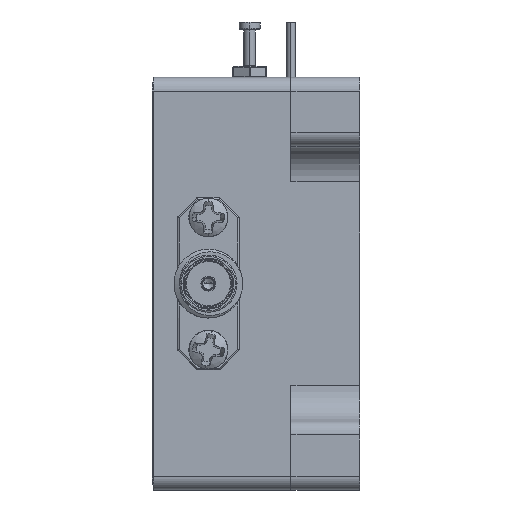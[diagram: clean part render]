
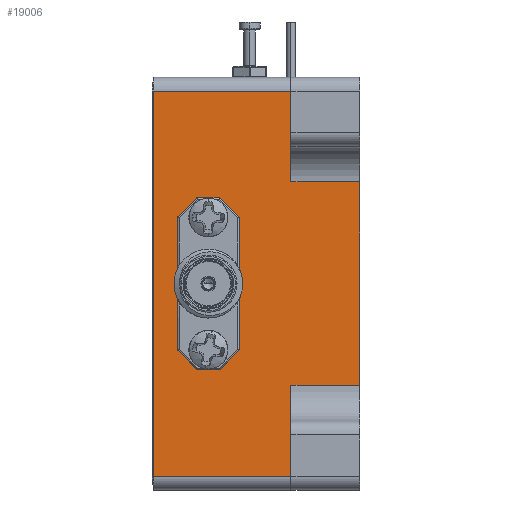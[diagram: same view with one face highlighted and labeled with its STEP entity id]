
A CAD part, left-side view. The second image highlights one B-rep face of the part: STEP entity #19006.
In plain terms, the highlighted planar face has unit normal (-1, 0, 0).
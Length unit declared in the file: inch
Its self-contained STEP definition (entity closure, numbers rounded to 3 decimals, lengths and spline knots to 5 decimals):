
#27 = LINE ( 'NONE', #52904, #43646 ) ;
#1480 = DIRECTION ( 'NONE',  ( 0., 0., 1. ) ) ;
#2326 = CARTESIAN_POINT ( 'NONE',  ( -0.8, 0.25, 0.25 ) ) ;
#4356 = AXIS2_PLACEMENT_3D ( 'NONE', #42103, #19575, #37378 ) ;
#5212 = CARTESIAN_POINT ( 'NONE',  ( -0.8, 0.75, 0. ) ) ;
#5288 = CARTESIAN_POINT ( 'NONE',  ( -0.8, 0.55, -0.5 ) ) ;
#6174 = EDGE_LOOP ( 'NONE', ( #51409, #49813, #33676, #54991, #54261, #46404, #44691, #6988 ) ) ;
#6676 = EDGE_CURVE ( 'NONE', #37142, #35496, #41799, .T. ) ;
#6988 = ORIENTED_EDGE ( 'NONE', *, *, #6676, .F. ) ;
#7002 = CARTESIAN_POINT ( 'NONE',  ( -0.8, 0.75, 0. ) ) ;
#7170 = EDGE_CURVE ( 'NONE', #37142, #15298, #29441, .T. ) ;
#8457 = DIRECTION ( 'NONE',  ( 0., 0., -1. ) ) ;
#8896 = CARTESIAN_POINT ( 'NONE',  ( -0.8, 0.25, -0.87 ) ) ;
#9037 = CARTESIAN_POINT ( 'NONE',  ( -0.8, 0.75, 0.2 ) ) ;
#10161 = CARTESIAN_POINT ( 'NONE',  ( -0.8, 0.55, -0.506 ) ) ;
#11346 = DIRECTION ( 'NONE',  ( 1., 0., 0. ) ) ;
#11721 = DIRECTION ( 'NONE',  ( 0., -1., 0. ) ) ;
#11798 = CIRCLE ( 'NONE', #4356, 0.006 ) ;
#13520 = CARTESIAN_POINT ( 'NONE',  ( -0.8, 0.25, 0.2 ) ) ;
#14194 = EDGE_CURVE ( 'NONE', #38595, #28235, #38054, .T. ) ;
#15290 = EDGE_CURVE ( 'NONE', #44089, #38595, #27, .T. ) ;
#15298 = VERTEX_POINT ( 'NONE', #9037 ) ;
#18567 = DIRECTION ( 'NONE',  ( 0., -1., 0. ) ) ;
#19006 = ADVANCED_FACE ( 'NONE', ( #41489, #27159 ), #40657, .F. ) ;
#19575 = DIRECTION ( 'NONE',  ( -1., 0., 0. ) ) ;
#19861 = EDGE_CURVE ( 'NONE', #28235, #15298, #27678, .T. ) ;
#20257 = DIRECTION ( 'NONE',  ( 0., 1., 0. ) ) ;
#20293 = ORIENTED_EDGE ( 'NONE', *, *, #22164, .F. ) ;
#22164 = EDGE_CURVE ( 'NONE', #45759, #33197, #38822, .T. ) ;
#22514 = DIRECTION ( 'NONE',  ( -1., 0., 0. ) ) ;
#23676 = EDGE_CURVE ( 'NONE', #33197, #45759, #11798, .T. ) ;
#23955 = VECTOR ( 'NONE', #20257, 39.37008 ) ;
#25609 = VERTEX_POINT ( 'NONE', #31351 ) ;
#27159 = FACE_OUTER_BOUND ( 'NONE', #6174, .T. ) ;
#27678 = LINE ( 'NONE', #5212, #29128 ) ;
#28235 = VERTEX_POINT ( 'NONE', #36301 ) ;
#28703 = CARTESIAN_POINT ( 'NONE',  ( -0.8, 0., -0.13 ) ) ;
#29128 = VECTOR ( 'NONE', #32073, 39.37008 ) ;
#29441 = LINE ( 'NONE', #44023, #57624 ) ;
#30125 = LINE ( 'NONE', #57045, #49329 ) ;
#31351 = CARTESIAN_POINT ( 'NONE',  ( -0.8, 0., -0.87 ) ) ;
#32073 = DIRECTION ( 'NONE',  ( 0., 0., 1. ) ) ;
#32301 = VECTOR ( 'NONE', #39295, 39.37008 ) ;
#33032 = EDGE_LOOP ( 'NONE', ( #20293, #56596 ) ) ;
#33197 = VERTEX_POINT ( 'NONE', #10161 ) ;
#33676 = ORIENTED_EDGE ( 'NONE', *, *, #14194, .F. ) ;
#35496 = VERTEX_POINT ( 'NONE', #38425 ) ;
#36301 = CARTESIAN_POINT ( 'NONE',  ( -0.8, 0.75, -1.2 ) ) ;
#37142 = VERTEX_POINT ( 'NONE', #13520 ) ;
#37378 = DIRECTION ( 'NONE',  ( 0., 0., 1. ) ) ;
#37664 = EDGE_CURVE ( 'NONE', #25609, #53566, #48376, .T. ) ;
#38054 = LINE ( 'NONE', #38637, #23955 ) ;
#38425 = CARTESIAN_POINT ( 'NONE',  ( -0.8, 0.25, -0.13 ) ) ;
#38595 = VERTEX_POINT ( 'NONE', #48174 ) ;
#38637 = CARTESIAN_POINT ( 'NONE',  ( -0.8, 0.17929, -1.2 ) ) ;
#38822 = CIRCLE ( 'NONE', #51938, 0.006 ) ;
#39295 = DIRECTION ( 'NONE',  ( 0., 0., 1. ) ) ;
#39623 = DIRECTION ( 'NONE',  ( 0., 1., 0. ) ) ;
#40197 = EDGE_CURVE ( 'NONE', #35496, #53566, #45204, .T. ) ;
#40657 = PLANE ( 'NONE',  #47219 ) ;
#40678 = EDGE_CURVE ( 'NONE', #44089, #25609, #30125, .T. ) ;
#40790 = CARTESIAN_POINT ( 'NONE',  ( -0.8, 0.55, -0.494 ) ) ;
#41489 = FACE_BOUND ( 'NONE', #33032, .T. ) ;
#41799 = LINE ( 'NONE', #2326, #45442 ) ;
#41815 = VECTOR ( 'NONE', #18567, 39.37008 ) ;
#42103 = CARTESIAN_POINT ( 'NONE',  ( -0.8, 0.55, -0.5 ) ) ;
#43646 = VECTOR ( 'NONE', #8457, 39.37008 ) ;
#44023 = CARTESIAN_POINT ( 'NONE',  ( -0.8, 0.17929, 0.2 ) ) ;
#44089 = VERTEX_POINT ( 'NONE', #8896 ) ;
#44691 = ORIENTED_EDGE ( 'NONE', *, *, #40197, .F. ) ;
#45204 = LINE ( 'NONE', #53670, #41815 ) ;
#45442 = VECTOR ( 'NONE', #54662, 39.37008 ) ;
#45759 = VERTEX_POINT ( 'NONE', #40790 ) ;
#46404 = ORIENTED_EDGE ( 'NONE', *, *, #37664, .T. ) ;
#47219 = AXIS2_PLACEMENT_3D ( 'NONE', #7002, #11346, #57188 ) ;
#48174 = CARTESIAN_POINT ( 'NONE',  ( -0.8, 0.25, -1.2 ) ) ;
#48376 = LINE ( 'NONE', #52724, #32301 ) ;
#49329 = VECTOR ( 'NONE', #11721, 39.37008 ) ;
#49813 = ORIENTED_EDGE ( 'NONE', *, *, #19861, .F. ) ;
#51409 = ORIENTED_EDGE ( 'NONE', *, *, #7170, .T. ) ;
#51938 = AXIS2_PLACEMENT_3D ( 'NONE', #5288, #22514, #1480 ) ;
#52724 = CARTESIAN_POINT ( 'NONE',  ( -0.8, 0., 0. ) ) ;
#52904 = CARTESIAN_POINT ( 'NONE',  ( -0.8, 0.25, 0.25 ) ) ;
#53566 = VERTEX_POINT ( 'NONE', #28703 ) ;
#53670 = CARTESIAN_POINT ( 'NONE',  ( -0.8, 0.75, -0.13 ) ) ;
#54261 = ORIENTED_EDGE ( 'NONE', *, *, #40678, .T. ) ;
#54662 = DIRECTION ( 'NONE',  ( 0., 0., -1. ) ) ;
#54991 = ORIENTED_EDGE ( 'NONE', *, *, #15290, .F. ) ;
#56596 = ORIENTED_EDGE ( 'NONE', *, *, #23676, .F. ) ;
#57045 = CARTESIAN_POINT ( 'NONE',  ( -0.8, 0.75, -0.87 ) ) ;
#57188 = DIRECTION ( 'NONE',  ( 0., 0., -1. ) ) ;
#57624 = VECTOR ( 'NONE', #39623, 39.37008 ) ;
